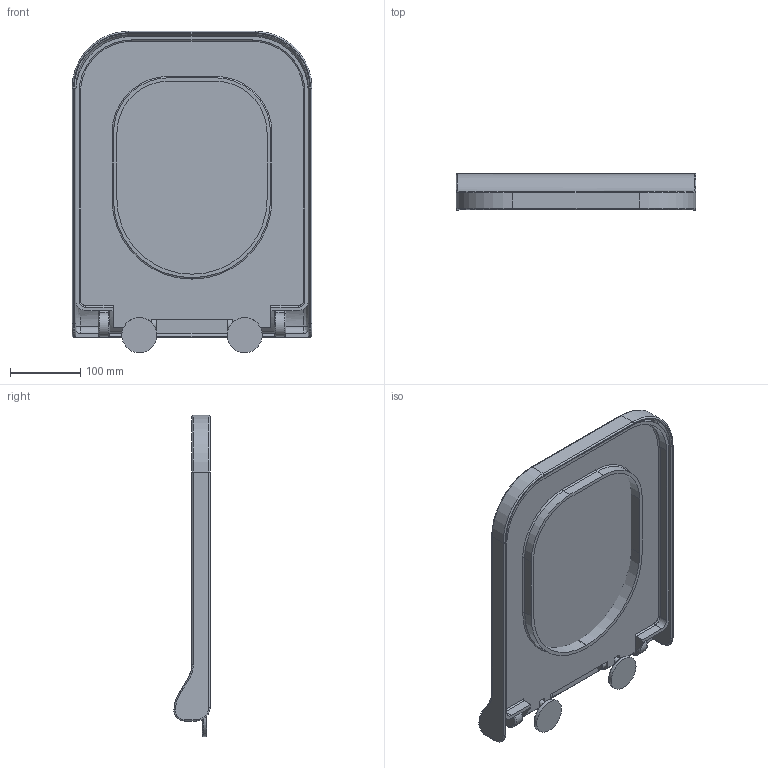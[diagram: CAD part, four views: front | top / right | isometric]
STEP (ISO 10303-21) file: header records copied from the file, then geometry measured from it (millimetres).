
FILE_DESCRIPTION(/* description */ (''),/* implementation_level */ '2;1');
FILE_NAME(/* name */ 'c:\worker\convert-fusion-jan-2019\tmp\job-1\212\output\files\c4cec761-0329-4adb-95d1-c202c14f54fd\5888cb67-4cc4-41b0-8de5-dc90724deac0.zip.stp',/* time_stamp */ '2019-01-25T16:11:32+00:00',/* author */ (''),/* organization */ (''),/* preprocessor_version */ 'ST-DEVELOPER v17.2',/* originating_system */ 'Autodesk Translation Framework v7.6.0.251',/* authorisation */ '');
FILE_SCHEMA (('AUTOMOTIVE_DESIGN { 1 0 10303 214 3 1 1 }'));
Length unit declared in the file: millimetre
Products named in the file (5): !FONTANA DE; 052E-001; 052E-002; 052E-003; PRT0002
Assembly tree (4 placements, depth 2):
  !FONTANA DE
    052E-001
    052E-002
    052E-003
    PRT0002
Bounding box: 342 x 51.69 x 458.36 mm (x, y, z)
Volume: 1577459.7 mm3; surface area: 613566.1 mm2
Topology: 4 solids, 4 shells, 192 faces, 478 edges, 297 vertices
Faces by surface type: cylinder 76, plane 60, torus 40, bspline 12, cone 4
Full cylindrical faces by diameter (mm): 9.777 x2, 18 x2, 50 x2
Entity records: 7635 total; most frequent: CARTESIAN_POINT 2847, DIRECTION 1045, ORIENTED_EDGE 956, EDGE_CURVE 478, AXIS2_PLACEMENT_3D 416, VERTEX_POINT 297, CIRCLE 227, LINE 213
